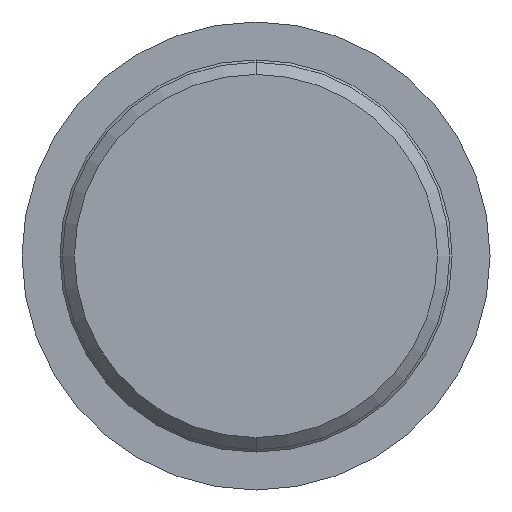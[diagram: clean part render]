
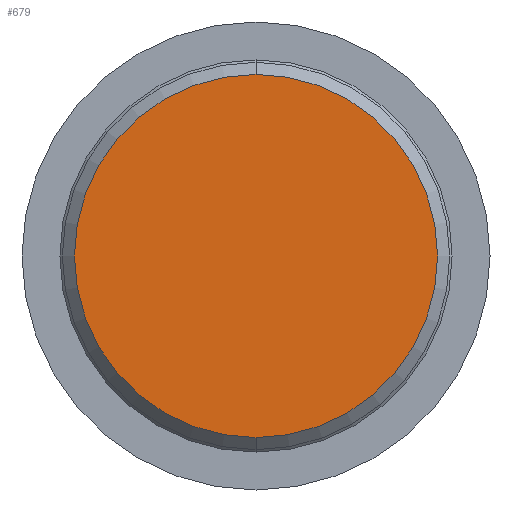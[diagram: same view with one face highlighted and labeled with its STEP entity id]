
A CAD part, front view. The second image highlights one B-rep face of the part: STEP entity #679.
In plain terms, the highlighted planar face has unit normal (0, -1, 0).
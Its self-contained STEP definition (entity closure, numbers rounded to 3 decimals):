
#49 = DIRECTION ( 'NONE',  ( 0., 0., 1. ) ) ;
#51 = DIRECTION ( 'NONE',  ( 0., 1., 0. ) ) ;
#76 = CIRCLE ( 'NONE', #277, 11.25 ) ;
#85 = VERTEX_POINT ( 'NONE', #100 ) ;
#100 = CARTESIAN_POINT ( 'NONE',  ( 0., 0., 11.25 ) ) ;
#104 = CARTESIAN_POINT ( 'NONE',  ( 0., 0., -11.25 ) ) ;
#134 = VERTEX_POINT ( 'NONE', #104 ) ;
#154 = DIRECTION ( 'NONE',  ( 0., 0., 1. ) ) ;
#194 = CARTESIAN_POINT ( 'NONE',  ( 0., 0., 0. ) ) ;
#217 = FACE_OUTER_BOUND ( 'NONE', #573, .T. ) ;
#223 = DIRECTION ( 'NONE',  ( 0., 0., 1. ) ) ;
#235 = EDGE_CURVE ( 'NONE', #85, #134, #76, .T. ) ;
#277 = AXIS2_PLACEMENT_3D ( 'NONE', #194, #330, #154 ) ;
#280 = CIRCLE ( 'NONE', #286, 11.25 ) ;
#281 = CARTESIAN_POINT ( 'NONE',  ( 11.25, 0., 0. ) ) ;
#286 = AXIS2_PLACEMENT_3D ( 'NONE', #364, #51, #223 ) ;
#330 = DIRECTION ( 'NONE',  ( 0., 1., 0. ) ) ;
#346 = AXIS2_PLACEMENT_3D ( 'NONE', #281, #748, #49 ) ;
#364 = CARTESIAN_POINT ( 'NONE',  ( 0., 0., 0. ) ) ;
#568 = EDGE_CURVE ( 'NONE', #134, #85, #280, .T. ) ;
#573 = EDGE_LOOP ( 'NONE', ( #721, #592 ) ) ;
#592 = ORIENTED_EDGE ( 'NONE', *, *, #568, .F. ) ;
#626 = PLANE ( 'NONE',  #346 ) ;
#679 = ADVANCED_FACE ( 'NONE', ( #217 ), #626, .F. ) ;
#721 = ORIENTED_EDGE ( 'NONE', *, *, #235, .F. ) ;
#748 = DIRECTION ( 'NONE',  ( 0., 1., 0. ) ) ;
